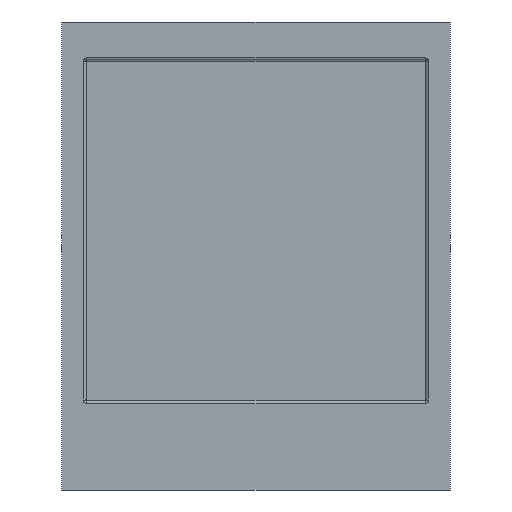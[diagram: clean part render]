
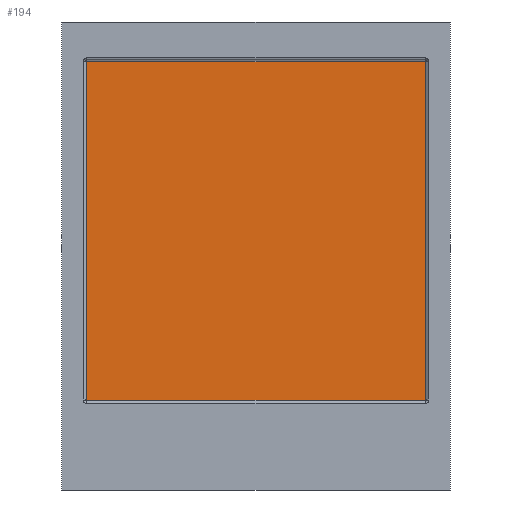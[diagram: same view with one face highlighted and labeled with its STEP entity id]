
A CAD part, front view. The second image highlights one B-rep face of the part: STEP entity #194.
In plain terms, the highlighted planar face has unit normal (0, -1, 0).
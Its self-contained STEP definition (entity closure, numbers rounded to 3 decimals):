
#194=ADVANCED_FACE('',(#304),#1710,.T.);
#304=FACE_OUTER_BOUND('',#424,.T.);
#424=EDGE_LOOP('',(#946,#947,#948,#949));
#946=ORIENTED_EDGE('',*,*,#1216,.F.);
#947=ORIENTED_EDGE('',*,*,#1213,.F.);
#948=ORIENTED_EDGE('',*,*,#1210,.F.);
#949=ORIENTED_EDGE('',*,*,#1206,.F.);
#1206=EDGE_CURVE('',#1614,#1615,#1440,.T.);
#1210=EDGE_CURVE('',#1615,#1618,#1444,.T.);
#1213=EDGE_CURVE('',#1618,#1620,#1447,.T.);
#1216=EDGE_CURVE('',#1620,#1614,#1450,.T.);
#1440=B_SPLINE_CURVE_WITH_KNOTS('',1,(#3112,#3113),.UNSPECIFIED.,.F.,.F.,
(2,2),(0.,940.),.UNSPECIFIED.);
#1444=B_SPLINE_CURVE_WITH_KNOTS('',1,(#3120,#3121),.UNSPECIFIED.,.F.,.F.,
(2,2),(940.,1880.),.UNSPECIFIED.);
#1447=B_SPLINE_CURVE_WITH_KNOTS('',1,(#3126,#3127),.UNSPECIFIED.,.F.,.F.,
(2,2),(1880.,2820.),.UNSPECIFIED.);
#1450=B_SPLINE_CURVE_WITH_KNOTS('',1,(#3132,#3133),.UNSPECIFIED.,.F.,.F.,
(2,2),(2820.,3760.),.UNSPECIFIED.);
#1614=VERTEX_POINT('',#3104);
#1615=VERTEX_POINT('',#3105);
#1618=VERTEX_POINT('',#3108);
#1620=VERTEX_POINT('',#3110);
#1710=PLANE('',#1888);
#1888=AXIS2_PLACEMENT_3D('',#3102,#1981,$);
#1981=DIRECTION('',(0.,-1.,0.));
#3102=CARTESIAN_POINT('',(399.385,-0.002,-1149.299));
#3104=CARTESIAN_POINT('',(399.385,-0.002,-1149.299));
#3105=CARTESIAN_POINT('',(399.385,-0.002,-209.299));
#3108=CARTESIAN_POINT('',(1339.385,-0.002,-209.299));
#3110=CARTESIAN_POINT('',(1339.385,-0.002,-1149.299));
#3112=CARTESIAN_POINT('',(399.385,-0.002,-1149.299));
#3113=CARTESIAN_POINT('',(399.385,-0.002,-209.299));
#3120=CARTESIAN_POINT('',(399.385,-0.002,-209.299));
#3121=CARTESIAN_POINT('',(1339.385,-0.002,-209.299));
#3126=CARTESIAN_POINT('',(1339.385,-0.002,-209.299));
#3127=CARTESIAN_POINT('',(1339.385,-0.002,-1149.299));
#3132=CARTESIAN_POINT('',(1339.385,-0.002,-1149.299));
#3133=CARTESIAN_POINT('',(399.385,-0.002,-1149.299));
